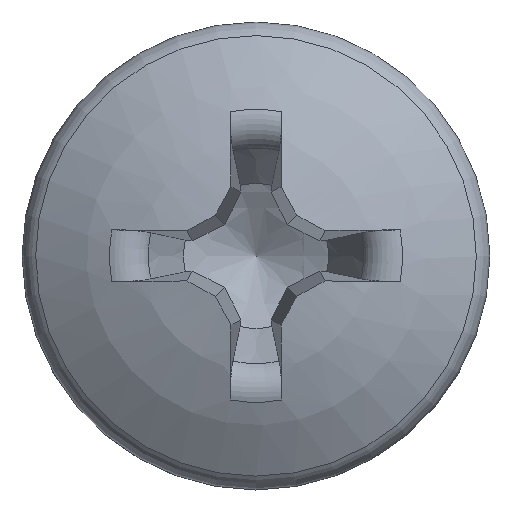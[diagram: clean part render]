
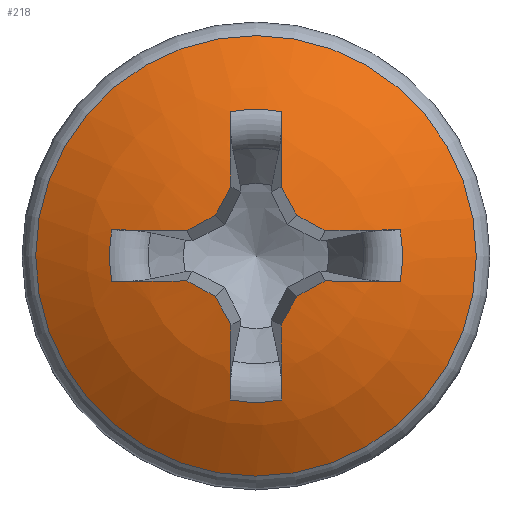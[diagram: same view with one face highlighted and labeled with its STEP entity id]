
A CAD part, top view. The second image highlights one B-rep face of the part: STEP entity #218.
In plain terms, the highlighted spherical face has radius 10.29 mm.
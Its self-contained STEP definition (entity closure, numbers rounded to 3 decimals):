
#189=SPHERICAL_SURFACE('',#1255,10.29);
#200=FACE_BOUND('',#369,.T.);
#201=FACE_BOUND('',#370,.T.);
#218=ADVANCED_FACE('',(#200,#201),#189,.T.);
#369=EDGE_LOOP('',(#503));
#370=EDGE_LOOP('',(#504,#505,#506,#507,#508,#509,#510,#511,#512,#513,#514,
#515,#516,#517,#518,#519,#520,#521,#522,#523));
#453=CIRCLE('',#1234,5.792);
#454=CIRCLE('',#1235,10.286);
#455=CIRCLE('',#1236,3.851);
#456=CIRCLE('',#1237,10.286);
#457=CIRCLE('',#1238,10.282);
#458=CIRCLE('',#1239,10.282);
#459=CIRCLE('',#1240,10.286);
#460=CIRCLE('',#1241,3.851);
#461=CIRCLE('',#1242,10.286);
#462=CIRCLE('',#1243,10.282);
#463=CIRCLE('',#1244,10.282);
#464=CIRCLE('',#1245,10.286);
#465=CIRCLE('',#1246,3.851);
#466=CIRCLE('',#1247,10.286);
#467=CIRCLE('',#1248,10.282);
#468=CIRCLE('',#1249,10.282);
#469=CIRCLE('',#1250,10.286);
#470=CIRCLE('',#1251,3.851);
#471=CIRCLE('',#1252,10.286);
#472=CIRCLE('',#1253,10.282);
#473=CIRCLE('',#1254,10.282);
#503=ORIENTED_EDGE('',*,*,#971,.T.);
#504=ORIENTED_EDGE('',*,*,#972,.F.);
#505=ORIENTED_EDGE('',*,*,#973,.T.);
#506=ORIENTED_EDGE('',*,*,#974,.F.);
#507=ORIENTED_EDGE('',*,*,#975,.F.);
#508=ORIENTED_EDGE('',*,*,#976,.F.);
#509=ORIENTED_EDGE('',*,*,#977,.F.);
#510=ORIENTED_EDGE('',*,*,#978,.T.);
#511=ORIENTED_EDGE('',*,*,#979,.F.);
#512=ORIENTED_EDGE('',*,*,#980,.F.);
#513=ORIENTED_EDGE('',*,*,#981,.F.);
#514=ORIENTED_EDGE('',*,*,#982,.F.);
#515=ORIENTED_EDGE('',*,*,#983,.T.);
#516=ORIENTED_EDGE('',*,*,#984,.F.);
#517=ORIENTED_EDGE('',*,*,#985,.F.);
#518=ORIENTED_EDGE('',*,*,#986,.F.);
#519=ORIENTED_EDGE('',*,*,#987,.F.);
#520=ORIENTED_EDGE('',*,*,#988,.T.);
#521=ORIENTED_EDGE('',*,*,#989,.F.);
#522=ORIENTED_EDGE('',*,*,#990,.F.);
#523=ORIENTED_EDGE('',*,*,#991,.F.);
#857=VERTEX_POINT('',#1784);
#858=VERTEX_POINT('',#1786);
#859=VERTEX_POINT('',#1787);
#860=VERTEX_POINT('',#1789);
#861=VERTEX_POINT('',#1791);
#862=VERTEX_POINT('',#1793);
#863=VERTEX_POINT('',#1795);
#864=VERTEX_POINT('',#1797);
#865=VERTEX_POINT('',#1799);
#866=VERTEX_POINT('',#1801);
#867=VERTEX_POINT('',#1803);
#868=VERTEX_POINT('',#1805);
#869=VERTEX_POINT('',#1807);
#870=VERTEX_POINT('',#1809);
#871=VERTEX_POINT('',#1811);
#872=VERTEX_POINT('',#1813);
#873=VERTEX_POINT('',#1815);
#874=VERTEX_POINT('',#1817);
#875=VERTEX_POINT('',#1819);
#876=VERTEX_POINT('',#1821);
#877=VERTEX_POINT('',#1823);
#971=EDGE_CURVE('',#857,#857,#453,.T.);
#972=EDGE_CURVE('',#858,#859,#454,.T.);
#973=EDGE_CURVE('',#858,#860,#455,.T.);
#974=EDGE_CURVE('',#861,#860,#456,.T.);
#975=EDGE_CURVE('',#862,#861,#457,.T.);
#976=EDGE_CURVE('',#863,#862,#458,.T.);
#977=EDGE_CURVE('',#864,#863,#459,.T.);
#978=EDGE_CURVE('',#864,#865,#460,.T.);
#979=EDGE_CURVE('',#866,#865,#461,.T.);
#980=EDGE_CURVE('',#867,#866,#462,.T.);
#981=EDGE_CURVE('',#868,#867,#463,.T.);
#982=EDGE_CURVE('',#869,#868,#464,.T.);
#983=EDGE_CURVE('',#869,#870,#465,.T.);
#984=EDGE_CURVE('',#871,#870,#466,.T.);
#985=EDGE_CURVE('',#872,#871,#467,.T.);
#986=EDGE_CURVE('',#873,#872,#468,.T.);
#987=EDGE_CURVE('',#874,#873,#469,.T.);
#988=EDGE_CURVE('',#874,#875,#470,.T.);
#989=EDGE_CURVE('',#876,#875,#471,.T.);
#990=EDGE_CURVE('',#877,#876,#472,.T.);
#991=EDGE_CURVE('',#859,#877,#473,.T.);
#1234=AXIS2_PLACEMENT_3D('',#1783,#1317,#1318);
#1235=AXIS2_PLACEMENT_3D('',#1785,#1319,#1320);
#1236=AXIS2_PLACEMENT_3D('',#1788,#1321,#1322);
#1237=AXIS2_PLACEMENT_3D('',#1790,#1323,#1324);
#1238=AXIS2_PLACEMENT_3D('',#1792,#1325,#1326);
#1239=AXIS2_PLACEMENT_3D('',#1794,#1327,#1328);
#1240=AXIS2_PLACEMENT_3D('',#1796,#1329,#1330);
#1241=AXIS2_PLACEMENT_3D('',#1798,#1331,#1332);
#1242=AXIS2_PLACEMENT_3D('',#1800,#1333,#1334);
#1243=AXIS2_PLACEMENT_3D('',#1802,#1335,#1336);
#1244=AXIS2_PLACEMENT_3D('',#1804,#1337,#1338);
#1245=AXIS2_PLACEMENT_3D('',#1806,#1339,#1340);
#1246=AXIS2_PLACEMENT_3D('',#1808,#1341,#1342);
#1247=AXIS2_PLACEMENT_3D('',#1810,#1343,#1344);
#1248=AXIS2_PLACEMENT_3D('',#1812,#1345,#1346);
#1249=AXIS2_PLACEMENT_3D('',#1814,#1347,#1348);
#1250=AXIS2_PLACEMENT_3D('',#1816,#1349,#1350);
#1251=AXIS2_PLACEMENT_3D('',#1818,#1351,#1352);
#1252=AXIS2_PLACEMENT_3D('',#1820,#1353,#1354);
#1253=AXIS2_PLACEMENT_3D('',#1822,#1355,#1356);
#1254=AXIS2_PLACEMENT_3D('',#1824,#1357,#1358);
#1255=AXIS2_PLACEMENT_3D('',#1825,#1359,#1360);
#1317=DIRECTION('',(0.,0.,1.));
#1318=DIRECTION('',(-1.,0.,0.));
#1319=DIRECTION('',(-0.996,-0.035,0.087));
#1320=DIRECTION('',(0.087,0.,0.996));
#1321=DIRECTION('',(0.,0.,-1.));
#1322=DIRECTION('',(-1.,0.,0.));
#1323=DIRECTION('',(0.996,-0.035,0.087));
#1324=DIRECTION('',(0.087,0.,-0.996));
#1325=DIRECTION('',(0.879,0.467,0.1));
#1326=DIRECTION('',(-0.469,0.883,0.));
#1327=DIRECTION('',(0.467,0.879,0.1));
#1328=DIRECTION('',(-0.883,0.469,0.));
#1329=DIRECTION('',(-0.035,0.996,0.087));
#1330=DIRECTION('',(0.,-0.087,0.996));
#1331=DIRECTION('',(0.,0.,-1.));
#1332=DIRECTION('',(-1.,0.,0.));
#1333=DIRECTION('',(-0.035,-0.996,0.087));
#1334=DIRECTION('',(0.,-0.087,-0.996));
#1335=DIRECTION('',(0.467,-0.879,0.1));
#1336=DIRECTION('',(0.883,0.469,0.));
#1337=DIRECTION('',(0.879,-0.467,0.1));
#1338=DIRECTION('',(0.469,0.883,0.));
#1339=DIRECTION('',(0.996,0.035,0.087));
#1340=DIRECTION('',(0.087,0.,-0.996));
#1341=DIRECTION('',(0.,0.,-1.));
#1342=DIRECTION('',(-1.,0.,0.));
#1343=DIRECTION('',(-0.996,0.035,0.087));
#1344=DIRECTION('',(0.087,0.,0.996));
#1345=DIRECTION('',(-0.879,-0.467,0.1));
#1346=DIRECTION('',(0.469,-0.883,0.));
#1347=DIRECTION('',(-0.467,-0.879,0.1));
#1348=DIRECTION('',(0.883,-0.469,0.));
#1349=DIRECTION('',(0.035,-0.996,0.087));
#1350=DIRECTION('',(0.,-0.087,-0.996));
#1351=DIRECTION('',(0.,0.,-1.));
#1352=DIRECTION('',(-1.,0.,0.));
#1353=DIRECTION('',(0.035,0.996,0.087));
#1354=DIRECTION('',(0.,-0.087,0.996));
#1355=DIRECTION('',(-0.467,0.879,0.1));
#1356=DIRECTION('',(-0.883,-0.469,0.));
#1357=DIRECTION('',(-0.879,0.467,0.1));
#1358=DIRECTION('',(-0.469,-0.883,0.));
#1359=DIRECTION('',(0.,0.,1.));
#1360=DIRECTION('',(0.,1.,0.));
#1783=CARTESIAN_POINT('',(0.,0.,3.315));
#1784=CARTESIAN_POINT('',(-5.792,0.,3.315));
#1785=CARTESIAN_POINT('',(-0.286,-0.01,-5.165));
#1786=CARTESIAN_POINT('',(0.68,-3.791,4.352));
#1787=CARTESIAN_POINT('',(0.66,-1.817,4.917));
#1788=CARTESIAN_POINT('',(0.,0.,4.352));
#1789=CARTESIAN_POINT('',(-0.68,-3.791,4.352));
#1790=CARTESIAN_POINT('',(0.286,-0.01,-5.165));
#1791=CARTESIAN_POINT('',(-0.66,-1.817,4.917));
#1792=CARTESIAN_POINT('',(-0.366,-0.194,-5.232));
#1793=CARTESIAN_POINT('',(-1.067,-1.067,4.989));
#1794=CARTESIAN_POINT('',(-0.194,-0.366,-5.232));
#1795=CARTESIAN_POINT('',(-1.817,-0.66,4.917));
#1796=CARTESIAN_POINT('',(-0.01,0.286,-5.165));
#1797=CARTESIAN_POINT('',(-3.791,-0.68,4.352));
#1798=CARTESIAN_POINT('',(0.,0.,4.352));
#1799=CARTESIAN_POINT('',(-3.791,0.68,4.352));
#1800=CARTESIAN_POINT('',(-0.01,-0.286,-5.165));
#1801=CARTESIAN_POINT('',(-1.817,0.66,4.917));
#1802=CARTESIAN_POINT('',(-0.194,0.366,-5.232));
#1803=CARTESIAN_POINT('',(-1.067,1.067,4.989));
#1804=CARTESIAN_POINT('',(-0.366,0.194,-5.232));
#1805=CARTESIAN_POINT('',(-0.66,1.817,4.917));
#1806=CARTESIAN_POINT('',(0.286,0.01,-5.165));
#1807=CARTESIAN_POINT('',(-0.68,3.791,4.352));
#1808=CARTESIAN_POINT('',(0.,0.,4.352));
#1809=CARTESIAN_POINT('',(0.68,3.791,4.352));
#1810=CARTESIAN_POINT('',(-0.286,0.01,-5.165));
#1811=CARTESIAN_POINT('',(0.66,1.817,4.917));
#1812=CARTESIAN_POINT('',(0.366,0.194,-5.232));
#1813=CARTESIAN_POINT('',(1.067,1.067,4.989));
#1814=CARTESIAN_POINT('',(0.194,0.366,-5.232));
#1815=CARTESIAN_POINT('',(1.817,0.66,4.917));
#1816=CARTESIAN_POINT('',(0.01,-0.286,-5.165));
#1817=CARTESIAN_POINT('',(3.791,0.68,4.352));
#1818=CARTESIAN_POINT('',(0.,0.,4.352));
#1819=CARTESIAN_POINT('',(3.791,-0.68,4.352));
#1820=CARTESIAN_POINT('',(0.01,0.286,-5.165));
#1821=CARTESIAN_POINT('',(1.817,-0.66,4.917));
#1822=CARTESIAN_POINT('',(0.194,-0.366,-5.232));
#1823=CARTESIAN_POINT('',(1.067,-1.067,4.989));
#1824=CARTESIAN_POINT('',(0.366,-0.194,-5.232));
#1825=CARTESIAN_POINT('',(0.,0.,-5.19));
